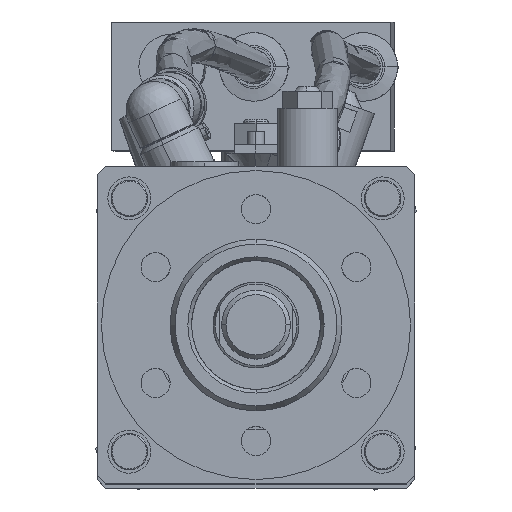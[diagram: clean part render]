
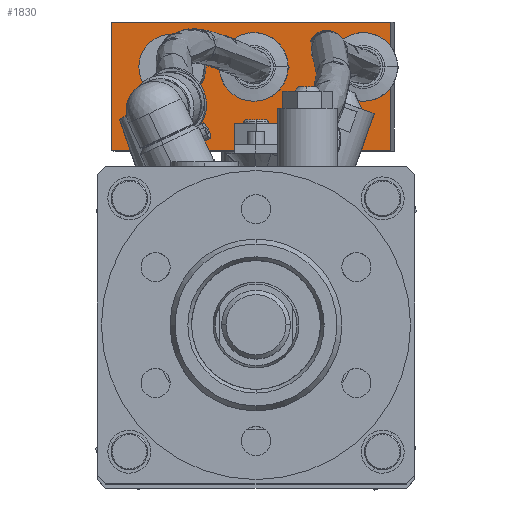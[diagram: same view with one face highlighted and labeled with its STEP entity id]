
A CAD part, top view. The second image highlights one B-rep face of the part: STEP entity #1830.
In plain terms, the highlighted planar face has unit normal (-0.017, 0, 1).
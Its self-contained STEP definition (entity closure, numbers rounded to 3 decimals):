
#219 = VERTEX_POINT ( 'NONE', #11442 ) ;
#595 = ORIENTED_EDGE ( 'NONE', *, *, #15144, .F. ) ;
#651 = ORIENTED_EDGE ( 'NONE', *, *, #6835, .F. ) ;
#742 = FACE_BOUND ( 'NONE', #2383, .T. ) ;
#894 = EDGE_CURVE ( 'NONE', #1630, #2599, #4442, .T. ) ;
#1240 = CARTESIAN_POINT ( 'NONE',  ( -19.187, 55., -77.311 ) ) ;
#1630 = VERTEX_POINT ( 'NONE', #8892 ) ;
#1830 = ADVANCED_FACE ( 'NONE', ( #742, #11348, #8975, #5506 ), #14877, .T. ) ;
#1847 = CARTESIAN_POINT ( 'NONE',  ( 25.307, 61., -76.57 ) ) ;
#1905 = CIRCLE ( 'NONE', #4827, 6. ) ;
#2162 = DIRECTION ( 'NONE',  ( -0.017, 0., 1. ) ) ;
#2238 = VECTOR ( 'NONE', #4881, 1000. ) ;
#2259 = DIRECTION ( 'NONE',  ( 0., -1., 0. ) ) ;
#2330 = EDGE_CURVE ( 'NONE', #3641, #219, #11326, .T. ) ;
#2383 = EDGE_LOOP ( 'NONE', ( #6175, #10218 ) ) ;
#2400 = DIRECTION ( 'NONE',  ( -1., 0., -0.017 ) ) ;
#2599 = VERTEX_POINT ( 'NONE', #1240 ) ;
#2687 = CARTESIAN_POINT ( 'NONE',  ( 4.81, 61., -76.911 ) ) ;
#3258 = DIRECTION ( 'NONE',  ( -1., 0., -0.017 ) ) ;
#3370 = VECTOR ( 'NONE', #7885, 1000. ) ;
#3417 = LINE ( 'NONE', #4635, #3370 ) ;
#3571 = VERTEX_POINT ( 'NONE', #5004 ) ;
#3641 = VERTEX_POINT ( 'NONE', #5313 ) ;
#4098 = VERTEX_POINT ( 'NONE', #2687 ) ;
#4356 = CARTESIAN_POINT ( 'NONE',  ( -15.02, 38.376, -77.241 ) ) ;
#4361 = EDGE_CURVE ( 'NONE', #4447, #3571, #7601, .T. ) ;
#4442 = CIRCLE ( 'NONE', #13005, 6. ) ;
#4447 = VERTEX_POINT ( 'NONE', #13960 ) ;
#4535 = VERTEX_POINT ( 'NONE', #4663 ) ;
#4635 = CARTESIAN_POINT ( 'NONE',  ( 31.413, 41.5, -76.468 ) ) ;
#4663 = CARTESIAN_POINT ( 'NONE',  ( 31.413, 41.5, -76.468 ) ) ;
#4673 = CIRCLE ( 'NONE', #13248, 5. ) ;
#4730 = CARTESIAN_POINT ( 'NONE',  ( 25.307, 61., -76.57 ) ) ;
#4827 = AXIS2_PLACEMENT_3D ( 'NONE', #11170, #7397, #12391 ) ;
#4881 = DIRECTION ( 'NONE',  ( 1., 0., 0.017 ) ) ;
#5004 = CARTESIAN_POINT ( 'NONE',  ( 30.306, 61., -76.486 ) ) ;
#5313 = CARTESIAN_POINT ( 'NONE',  ( -33.578, 71.5, -77.55 ) ) ;
#5412 = EDGE_LOOP ( 'NONE', ( #13698, #5425, #8084, #8910 ) ) ;
#5425 = ORIENTED_EDGE ( 'NONE', *, *, #11686, .T. ) ;
#5506 = FACE_BOUND ( 'NONE', #13781, .T. ) ;
#5657 = DIRECTION ( 'NONE',  ( -1., 0., -0.017 ) ) ;
#5777 = CARTESIAN_POINT ( 'NONE',  ( -0.19, 61., -76.994 ) ) ;
#6033 = LINE ( 'NONE', #11718, #2238 ) ;
#6100 = CARTESIAN_POINT ( 'NONE',  ( 31.413, 71.5, -76.468 ) ) ;
#6175 = ORIENTED_EDGE ( 'NONE', *, *, #11438, .F. ) ;
#6182 = AXIS2_PLACEMENT_3D ( 'NONE', #4356, #9049, #13716 ) ;
#6740 = CARTESIAN_POINT ( 'NONE',  ( 31.413, 71.5, -76.468 ) ) ;
#6835 = EDGE_CURVE ( 'NONE', #15197, #4098, #8163, .T. ) ;
#6837 = DIRECTION ( 'NONE',  ( -1., 0., -0.017 ) ) ;
#7397 = DIRECTION ( 'NONE',  ( -0.017, 0., 1. ) ) ;
#7601 = CIRCLE ( 'NONE', #7857, 5. ) ;
#7664 = EDGE_LOOP ( 'NONE', ( #8648, #651 ) ) ;
#7830 = EDGE_CURVE ( 'NONE', #219, #4535, #6033, .T. ) ;
#7857 = AXIS2_PLACEMENT_3D ( 'NONE', #1847, #2162, #6837 ) ;
#7871 = CARTESIAN_POINT ( 'NONE',  ( -19.187, 61., -77.311 ) ) ;
#7885 = DIRECTION ( 'NONE',  ( 0., 1., 0. ) ) ;
#8070 = EDGE_CURVE ( 'NONE', #4098, #15197, #4673, .T. ) ;
#8084 = ORIENTED_EDGE ( 'NONE', *, *, #2330, .T. ) ;
#8163 = CIRCLE ( 'NONE', #8411, 5. ) ;
#8220 = AXIS2_PLACEMENT_3D ( 'NONE', #4730, #15111, #5657 ) ;
#8411 = AXIS2_PLACEMENT_3D ( 'NONE', #9175, #9309, #3258 ) ;
#8648 = ORIENTED_EDGE ( 'NONE', *, *, #8070, .F. ) ;
#8867 = DIRECTION ( 'NONE',  ( 0., 1., 0. ) ) ;
#8892 = CARTESIAN_POINT ( 'NONE',  ( -19.187, 67., -77.311 ) ) ;
#8910 = ORIENTED_EDGE ( 'NONE', *, *, #7830, .T. ) ;
#8975 = FACE_OUTER_BOUND ( 'NONE', #5412, .T. ) ;
#9049 = DIRECTION ( 'NONE',  ( -0.017, 0., 1. ) ) ;
#9175 = CARTESIAN_POINT ( 'NONE',  ( -0.19, 61., -76.994 ) ) ;
#9211 = CIRCLE ( 'NONE', #8220, 5. ) ;
#9309 = DIRECTION ( 'NONE',  ( -0.017, 0., 1. ) ) ;
#10218 = ORIENTED_EDGE ( 'NONE', *, *, #4361, .F. ) ;
#10327 = DIRECTION ( 'NONE',  ( -0.017, 0., 1. ) ) ;
#10470 = DIRECTION ( 'NONE',  ( -0.017, 0., 1. ) ) ;
#11170 = CARTESIAN_POINT ( 'NONE',  ( -19.187, 61., -77.311 ) ) ;
#11326 = LINE ( 'NONE', #12695, #11591 ) ;
#11348 = FACE_BOUND ( 'NONE', #7664, .T. ) ;
#11417 = DIRECTION ( 'NONE',  ( -1., 0., -0.017 ) ) ;
#11438 = EDGE_CURVE ( 'NONE', #3571, #4447, #9211, .T. ) ;
#11442 = CARTESIAN_POINT ( 'NONE',  ( -33.578, 41.5, -77.55 ) ) ;
#11591 = VECTOR ( 'NONE', #2259, 1000. ) ;
#11686 = EDGE_CURVE ( 'NONE', #13477, #3641, #12554, .T. ) ;
#11718 = CARTESIAN_POINT ( 'NONE',  ( 31.413, 41.5, -76.468 ) ) ;
#12391 = DIRECTION ( 'NONE',  ( 0., 1., 0. ) ) ;
#12414 = ORIENTED_EDGE ( 'NONE', *, *, #894, .F. ) ;
#12554 = LINE ( 'NONE', #6740, #13116 ) ;
#12695 = CARTESIAN_POINT ( 'NONE',  ( -33.578, 41.5, -77.55 ) ) ;
#13005 = AXIS2_PLACEMENT_3D ( 'NONE', #7871, #10327, #8867 ) ;
#13116 = VECTOR ( 'NONE', #11417, 1000. ) ;
#13248 = AXIS2_PLACEMENT_3D ( 'NONE', #5777, #10470, #2400 ) ;
#13302 = CARTESIAN_POINT ( 'NONE',  ( -5.189, 61., -77.077 ) ) ;
#13477 = VERTEX_POINT ( 'NONE', #6100 ) ;
#13698 = ORIENTED_EDGE ( 'NONE', *, *, #14887, .T. ) ;
#13716 = DIRECTION ( 'NONE',  ( -1., 0., -0.017 ) ) ;
#13781 = EDGE_LOOP ( 'NONE', ( #595, #12414 ) ) ;
#13960 = CARTESIAN_POINT ( 'NONE',  ( 20.307, 61., -76.653 ) ) ;
#14877 = PLANE ( 'NONE',  #6182 ) ;
#14887 = EDGE_CURVE ( 'NONE', #4535, #13477, #3417, .T. ) ;
#15111 = DIRECTION ( 'NONE',  ( -0.017, 0., 1. ) ) ;
#15144 = EDGE_CURVE ( 'NONE', #2599, #1630, #1905, .T. ) ;
#15197 = VERTEX_POINT ( 'NONE', #13302 ) ;
